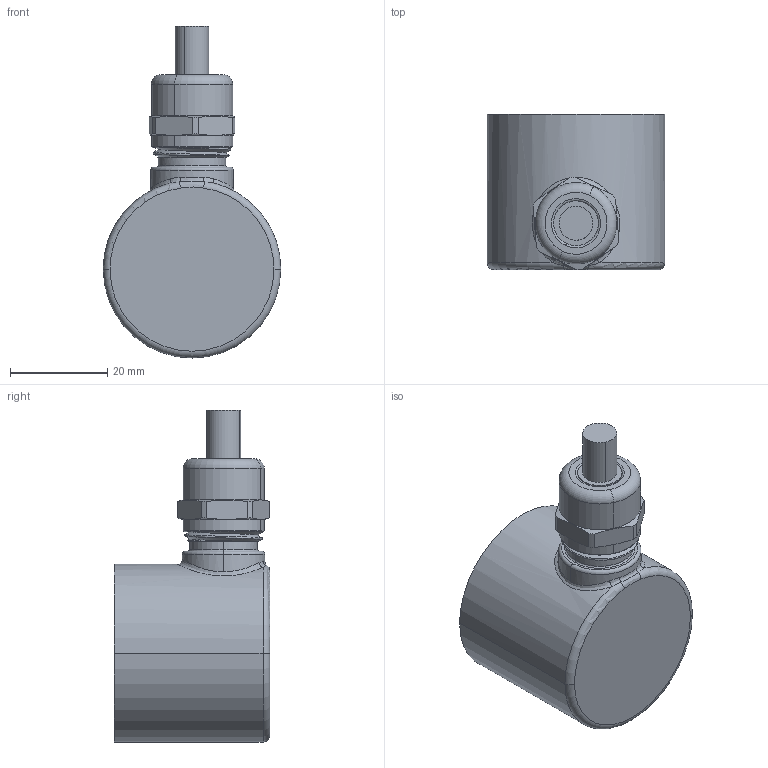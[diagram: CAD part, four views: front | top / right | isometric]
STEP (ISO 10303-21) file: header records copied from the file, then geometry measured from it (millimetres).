
FILE_DESCRIPTION (( 'STEP AP214' ), '1' );
FILE_NAME ('drawing-mc-3-cr-320-szm-nnnggf-n-2rc-n.STEP', '2025-04-08T11:32:58', ( '' ), ( '' ), 'SwSTEP 2.0', 'SolidWorks 2024', '' );
FILE_SCHEMA (( 'AUTOMOTIVE_DESIGN' ));
Length unit declared in the file: millimetre
Products named in the file (1): drawing-mc-3-cr-320-szm-nnnggf-n-2rc-n
Bounding box: 36.5 x 32 x 68.25 mm (x, y, z)
Volume: 6650.4 mm3; surface area: 14096.9 mm2
Topology: 5 solids, 5 shells, 298 faces, 815 edges, 531 vertices
Faces by surface type: plane 122, cylinder 113, torus 38, cone 17, bspline 8
Entity records: 13716 total; most frequent: CARTESIAN_POINT 6215, ORIENTED_EDGE 1630, DIRECTION 1542, EDGE_CURVE 815, AXIS2_PLACEMENT_3D 635, VERTEX_POINT 531, CIRCLE 344, EDGE_LOOP 308
